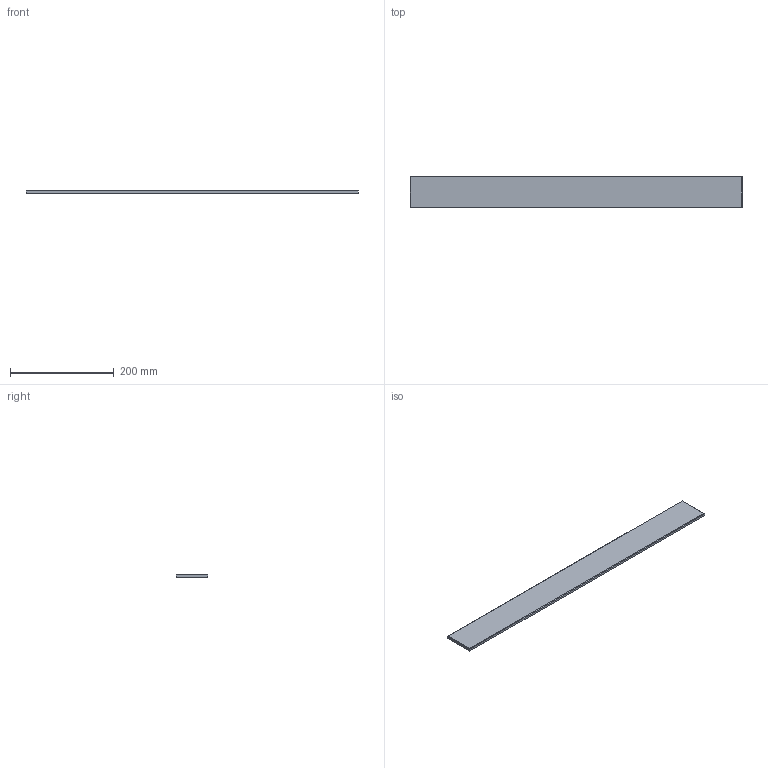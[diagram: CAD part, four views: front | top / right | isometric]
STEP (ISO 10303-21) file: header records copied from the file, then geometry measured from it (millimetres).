
FILE_DESCRIPTION((''),'2;1');
FILE_NAME('238470-HI','2023-01-30T08:30:16',('1ke04'),('Kesseboehmer'),'CREO PARAMETRIC BY PTC INC, 2020414','CREO PARAMETRIC BY PTC INC, 2020414','');
FILE_SCHEMA(('AUTOMOTIVE_DESIGN { 1 0 10303 214 1 1 1 1 }'));
Length unit declared in the file: millimetre
Products named in the file (1): 238470-HI
Bounding box: 639 x 61 x 6 mm (x, y, z)
Volume: 232476.7 mm3; surface area: 84714.5 mm2
Topology: 1 solids, 1 shells, 14 faces, 28 edges, 16 vertices
Faces by surface type: plane 14
Entity records: 966 total; most frequent: COLOUR_RGB 194, DIRECTION 81, CARTESIAN_POINT 76, ORIENTED_EDGE 56, PROPERTY_DEFINITION 39, REPRESENTATION 38, PROPERTY_DEFINITION_REPRESENTATION 38, PRESENTATION_STYLE_ASSIGNMENT 32
